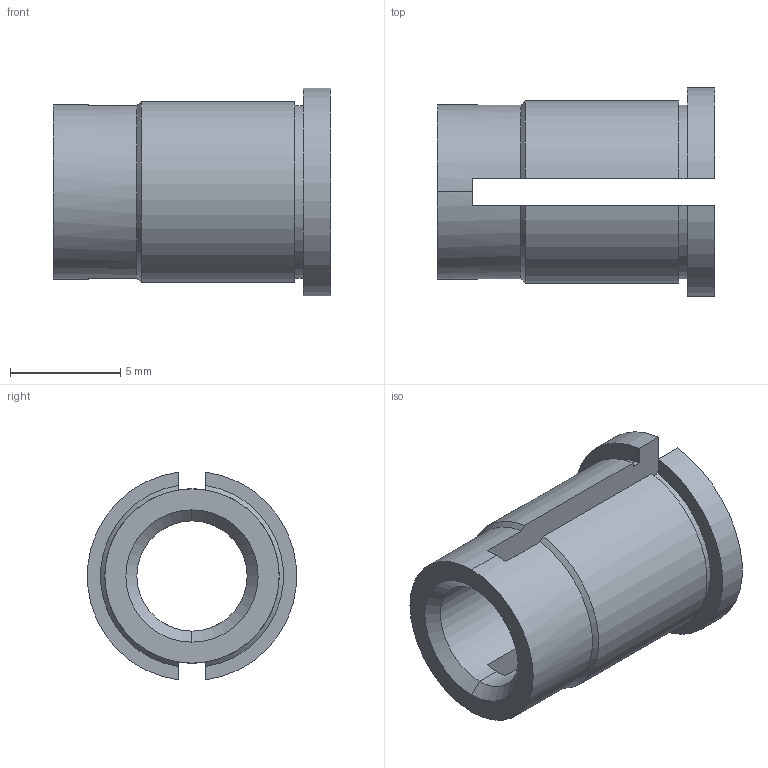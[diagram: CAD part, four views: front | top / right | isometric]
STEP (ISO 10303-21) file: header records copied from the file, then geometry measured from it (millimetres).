
FILE_DESCRIPTION (( 'STEP AP203' ), '1' );
FILE_NAME ('FSUK-EXPR-M06-S.STEP', '2021-04-15T17:40:10', ( '' ), ( '' ), 'SwSTEP 2.0', 'SolidWorks 2021', '' );
FILE_SCHEMA (( 'CONFIG_CONTROL_DESIGN' ));
Length unit declared in the file: millimetre
Products named in the file (1): FSUK-EXPR-M06-S
Bounding box: 12.6 x 9.47 x 9.42 mm (x, y, z)
Volume: 385.2 mm3; surface area: 644.2 mm2
Topology: 1 solids, 1 shells, 29 faces, 82 edges, 54 vertices
Faces by surface type: plane 13, cylinder 10, cone 6
Entity records: 1041 total; most frequent: CARTESIAN_POINT 190, DIRECTION 166, ORIENTED_EDGE 164, EDGE_CURVE 82, AXIS2_PLACEMENT_3D 62, VERTEX_POINT 54, VECTOR 42, LINE 42
